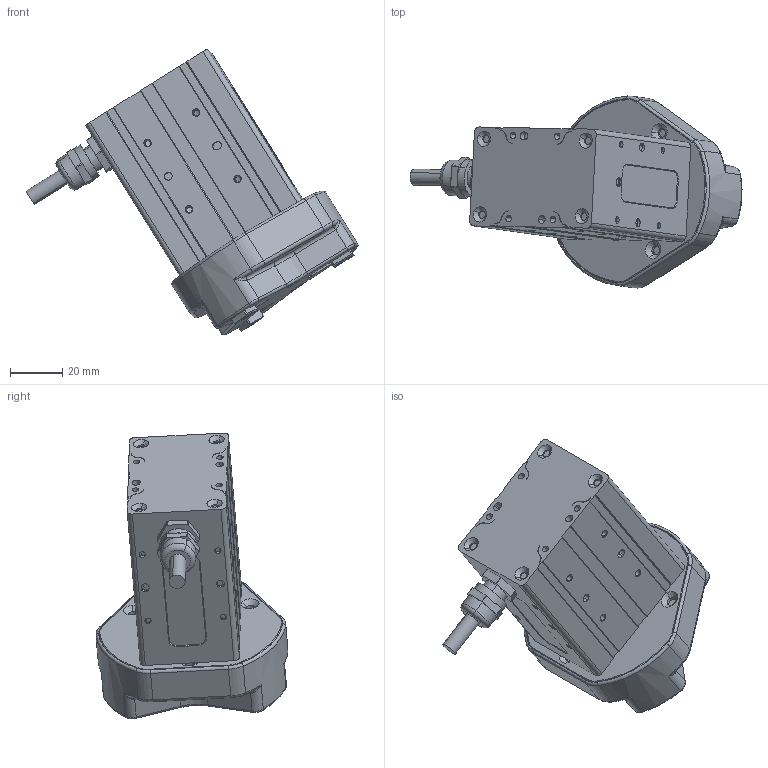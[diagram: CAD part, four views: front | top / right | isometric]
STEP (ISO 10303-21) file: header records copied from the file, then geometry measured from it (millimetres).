
FILE_DESCRIPTION(('CATIA V5 STEP Exchange'),'2;1');
FILE_NAME('F:\罗秋杰\夹爪Z-EFG\ECG10-2.0\外发模型\Z-ECG10.stp','2022-04-08T08:46:41+00:00',('none'),('none'),'CATIA Version 5 Release 20 GA (IN-10)','CATIA V5 STEP AP203','none');
FILE_SCHEMA(('CONFIG_CONTROL_DESIGN'));
Length unit declared in the file: millimetre
Products named in the file (1): Z-ECG10
Bounding box: 127.08 x 73.49 x 109.42 mm (x, y, z)
Volume: 214068.8 mm3; surface area: 45317.2 mm2
Topology: 4 solids, 35 shells, 1239 faces, 3002 edges, 1923 vertices
Faces by surface type: plane 637, cylinder 428, cone 124, torus 38, bspline 12
Entity records: 33917 total; most frequent: CARTESIAN_POINT 7004, ORIENTED_EDGE 5992, DIRECTION 4472, EDGE_CURVE 2996, VERTEX_POINT 1923, VECTOR 1841, LINE 1841, AXIS2_PLACEMENT_3D 1830
